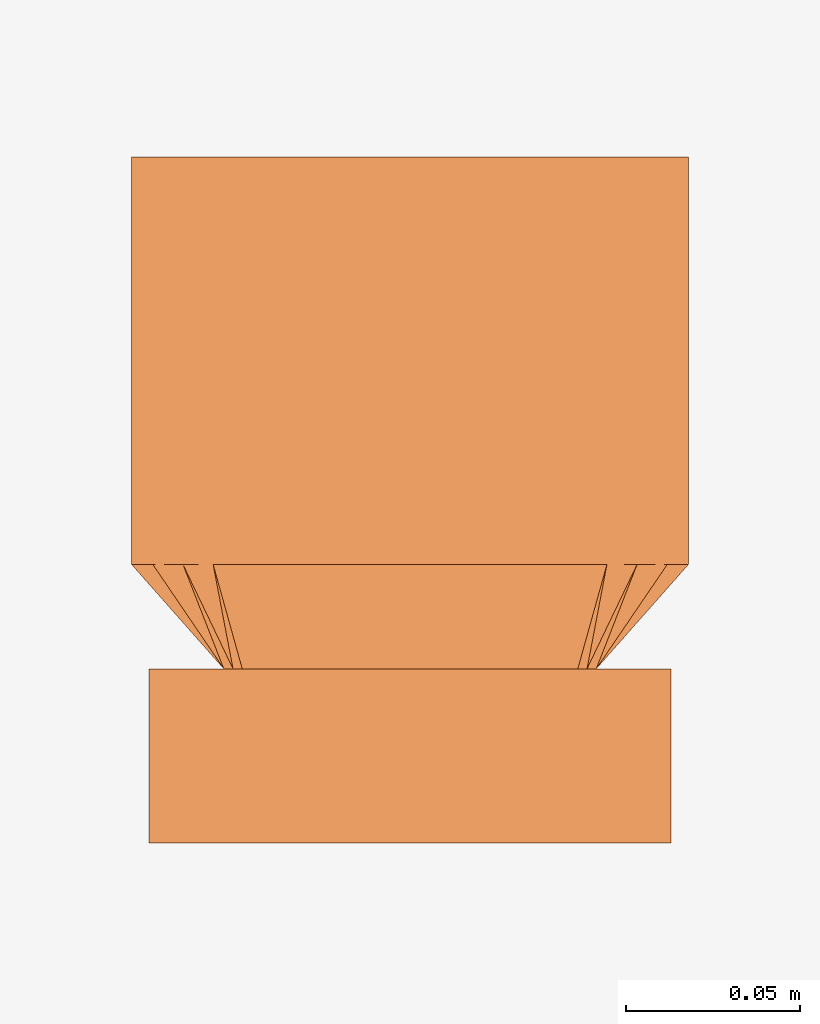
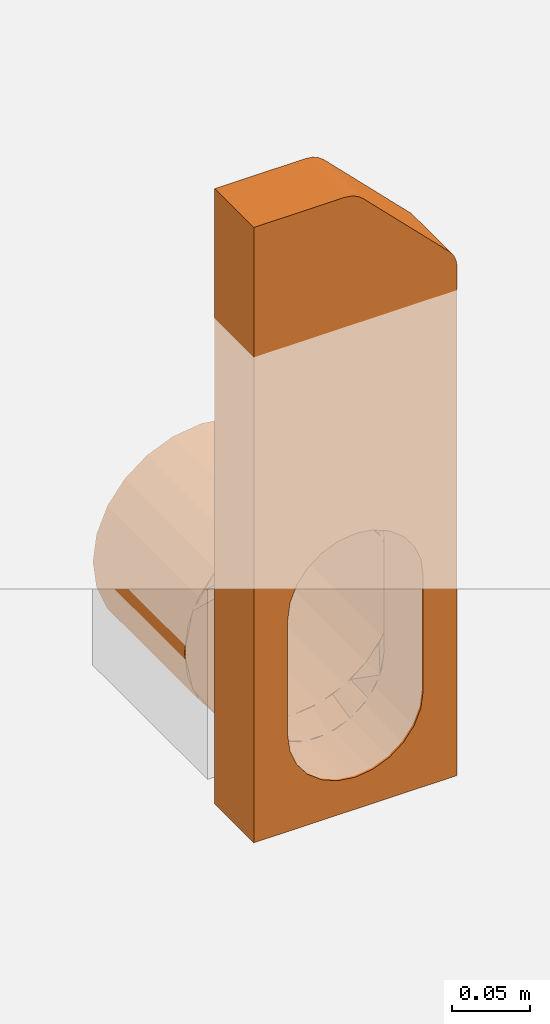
# One storey, part 2 of 2: 1 proxy.
"""IFC2X3 building model written with IfcOpenShell, lengths in millimetres."""

from ifc_helpers import new_model, entity, si_unit, converted_unit, direction, frame, origin, place, context, subcontext, project, spatial, faceted_brep, source, transform, mapped, material, material_list, element, save


model = new_model("IFC2X3")

# Units and contexts
model_context = context("Model", 3, precision=1e-06, world=origin(), true_north=direction((2.0, 6.12303176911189e-17, 1.0)))
context_of_model = context(None, 3, precision=1e-06, world=origin(), true_north=direction((2.0, 6.12303176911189e-17, 1.0)))
body_context = subcontext(model_context, "Body", "Model", "MODEL_VIEW")
ifc_project = project(units=[si_unit("LENGTHUNIT", "METRE", prefix="MILLI"), si_unit("AREAUNIT", "SQUARE_METRE", prefix="MILLI"), si_unit("VOLUMEUNIT", "CUBIC_METRE", prefix="MILLI"), converted_unit("PLANEANGLEUNIT", "DEGREE", entity("IfcRatioMeasure", 0.0174532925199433), si_unit("PLANEANGLEUNIT", "RADIAN"), dimensions=[0, 0, 0, 0, 0, 0, 0]), si_unit("TIMEUNIT", "SECOND")], contexts=[model_context, context_of_model])

# Site, building, storey
site_placement = place(None, origin())
site = spatial("IfcSite", under=ifc_project, at=site_placement, Name="Default", CompositionType="ELEMENT")
building_placement = place(site_placement, origin())
building = spatial("IfcBuilding", under=site, at=building_placement, CompositionType="ELEMENT")
storey_placement = place(building_placement, origin())
storey = spatial("IfcBuildingStorey", under=building, at=storey_placement, Name="Level 1", CompositionType="ELEMENT", Elevation=0.0)

# Proxy
ifc_material_1 = material(Name="ACO Polymer Concrete")
ifc_material_2 = material(Name="Acetal Resin, Black")
ifc_material_list = material_list([ifc_material_1, ifc_material_2])
shared_shape = source(origin(), body_context, "Body", "Brep", [
    faceted_brep([(-75.0, 50.0, -380.0), (-24.9795963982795, 50.0, -348.266967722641), (-12.9205486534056, 50.0, -353.261988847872), (-35.3349354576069, 50.0, -340.321036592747), (0.0204036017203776, 50.0, -354.965697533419), (75.0, 50.0, -380.0), (-49.9795963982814, 50.0, -214.96569753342), (-49.9795963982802, 50.0, -304.96569753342), (-75.0, 50.0, 100.0), (-43.2808665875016, 50.0, -329.96569753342), (-48.2758877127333, 50.0, -317.906649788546), (12.9613558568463, 50.0, -353.261988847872), (25.0204036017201, 50.0, -348.26696772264), (35.3757426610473, 50.0, -340.321036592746), (43.3216737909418, 50.0, -329.965697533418), (50.0204036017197, 50.0, -304.965697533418), (50.0204036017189, 50.0, -214.965697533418), (75.0, 50.0, 17.1299423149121), (48.3166949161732, 50.0, -317.906649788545), (48.3166949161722, 50.0, -202.024745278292), (-43.2808665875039, 50.0, -189.965697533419), (-48.2758877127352, 50.0, -202.024745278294), (-24.9795963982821, 50.0, -171.664427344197), (-35.3349354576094, 50.0, -179.610358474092), (-12.9205486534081, 50.0, -166.669406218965), (-7.87005768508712, 50.0, 100.0), (5.56497115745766, 50.0, 94.4350288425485), (69.4350288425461, 50.0, 30.5649711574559), (0.0204036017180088, 50.0, -164.965697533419), (-2.95249582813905, 50.0, 99.3525906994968), (1.6299423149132, 50.0, 97.4544826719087), (25.0204036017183, 50.0, -171.664427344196), (12.9613558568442, 50.0, -166.669406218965), (43.3216737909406, 50.0, -189.965697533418), (35.3757426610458, 50.0, -179.610358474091), (72.4544826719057, 50.0, 26.6299423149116), (74.3525906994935, 50.0, 22.0475041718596), (-7.87005768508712, 0.0, 100.0), (5.56497115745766, 0.0, 94.4350288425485), (1.6299423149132, 0.0, 97.4544826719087), (-2.95249582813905, 0.0, 99.3525906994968), (-75.0, 0.0, 100.0), (69.4350288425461, 0.0, 30.5649711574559), (-43.2808665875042, 0.0, -189.96569753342), (-35.3349354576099, 0.0, -179.610358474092), (-12.9205486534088, 0.0, -166.669406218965), (75.0, 0.0, 17.1299423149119), (-24.9795963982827, 0.0, -171.664427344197), (-48.2758877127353, 0.0, -202.024745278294), (0.0204036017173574, 0.0, -164.965697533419), (74.3525906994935, 0.0, 22.0475041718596), (72.4544826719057, 0.0, 26.6299423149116), (12.9613558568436, 0.0, -166.669406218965), (25.0204036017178, 0.0, -171.664427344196), (35.3757426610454, 0.0, -179.61035847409), (43.3216737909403, 0.0, -189.965697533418), (48.316694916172, 0.0, -202.024745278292), (-49.9795963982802, 0.0, -304.96569753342), (-49.9795963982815, 0.0, -214.96569753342), (-75.0, 0.0, -380.0), (-48.2758877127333, 0.0, -317.906649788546), (-43.2808665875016, 0.0, -329.96569753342), (-35.3349354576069, 0.0, -340.321036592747), (-24.9795963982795, 0.0, -348.266967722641), (-12.9205486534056, 0.0, -353.261988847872), (0.0204036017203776, 0.0, -354.965697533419), (75.0, 0.0, -380.0), (50.0204036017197, 0.0, -304.965697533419), (48.3166949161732, 0.0, -317.906649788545), (50.0204036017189, 0.0, -214.965697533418), (43.3216737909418, 0.0, -329.965697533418), (12.9613558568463, 0.0, -353.261988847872), (35.3757426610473, 0.0, -340.321036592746), (25.0204036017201, 0.0, -348.26696772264)], [[[0, 1, 2]], [[1, 0, 3]], [[0, 2, 4, 5]], [[6, 7, 0, 8]], [[9, 3, 0]], [[10, 9, 0]], [[7, 10, 0]], [[11, 12, 5]], [[5, 13, 14]], [[13, 5, 12]], [[11, 5, 4]], [[5, 15, 16, 17]], [[18, 15, 5]], [[14, 18, 5]], [[17, 16, 19]], [[20, 21, 8]], [[22, 23, 8]], [[20, 8, 23]], [[8, 17, 24, 22]], [[8, 25, 26, 27]], [[24, 17, 28]], [[25, 29, 30, 26]], [[21, 6, 8]], [[31, 32, 17]], [[33, 34, 17]], [[17, 34, 31]], [[33, 17, 19]], [[28, 17, 32]], [[17, 8, 27]], [[27, 35, 36, 17]], [[37, 38, 39, 40]], [[38, 37, 41, 42]], [[43, 44, 41]], [[45, 46, 41, 47]], [[44, 47, 41]], [[41, 48, 43]], [[46, 45, 49]], [[42, 46, 50, 51]], [[52, 53, 46]], [[46, 54, 55]], [[54, 46, 53]], [[46, 55, 56]], [[42, 41, 46]], [[49, 52, 46]], [[57, 58, 59]], [[57, 59, 60]], [[58, 48, 41, 59]], [[61, 59, 62]], [[59, 61, 60]], [[63, 62, 59]], [[64, 63, 59]], [[65, 64, 59, 66]], [[67, 68, 66]], [[69, 67, 66, 46]], [[70, 66, 68]], [[71, 65, 66]], [[72, 73, 66]], [[66, 73, 71]], [[72, 66, 70]], [[69, 46, 56]], [[59, 41, 8, 0]], [[66, 59, 0, 5]], [[17, 46, 66, 5]], [[8, 41, 37, 25]], [[57, 7, 6, 58]], [[21, 48, 58, 6]], [[45, 47, 22, 24]], [[47, 44, 23, 22]], [[49, 45, 24, 28]], [[43, 48, 21, 20]], [[44, 43, 20, 23]], [[53, 52, 32, 31]], [[54, 53, 31, 34]], [[56, 55, 33, 19]], [[55, 54, 34, 33]], [[69, 56, 19, 16]], [[28, 32, 52, 49]], [[16, 15, 67, 69]], [[18, 68, 67, 15]], [[14, 70, 68, 18]], [[65, 71, 11, 4]], [[13, 72, 70, 14]], [[13, 12, 73, 72]], [[71, 73, 12, 11]], [[63, 64, 2, 1]], [[62, 63, 1, 3]], [[60, 61, 9, 10]], [[61, 62, 3, 9]], [[57, 60, 10, 7]], [[4, 2, 64, 65]], [[46, 17, 36, 50]], [[50, 36, 35, 51]], [[51, 35, 27, 42]], [[38, 42, 27, 26]], [[38, 26, 30, 39]], [[39, 30, 29, 40]], [[40, 29, 25, 37]]]),
    faceted_brep([(-30.5712097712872, 80.0, -352.426054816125), (-43.5481437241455, 80.0, -343.755144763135), (-42.4623383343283, 80.0, -342.13348001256), (-29.2349814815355, 80.0, -349.201790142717), (0.043464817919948, 80.0, -358.515692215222), (-15.2638724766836, 80.0, -355.470873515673), (-14.8829729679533, 80.0, -353.553557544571), (0.0420870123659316, 80.0, -355.021642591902), (-56.5250776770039, 80.0, -335.084234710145), (-54.0566263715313, 80.0, -332.6201723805), (-79.9565351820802, 80.0, -278.515692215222), (-76.4678184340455, 80.0, -278.521643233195), (-75.9275944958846, 80.0, -284.005838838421), (-74.9974728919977, 80.0, -293.448161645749), (-73.866897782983, 80.0, -309.130366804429), (-77.6982946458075, 80.0, -289.868634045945), (-70.6430722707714, 80.0, -307.800620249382), (-63.5721509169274, 80.0, -321.027394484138), (-65.1959877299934, 80.0, -322.107300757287), (30.6581394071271, 80.0, -352.426054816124), (15.3508021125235, 80.0, -355.470873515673), (14.9666109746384, 80.0, -353.549723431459), (29.3170621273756, 80.0, -349.19445109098), (56.6120073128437, 80.0, -335.084234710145), (43.6350733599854, 80.0, -343.755144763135), (42.5419883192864, 80.0, -342.123265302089), (54.1332059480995, 80.0, -332.607955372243), (63.6453205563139, 80.0, -321.014213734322), (70.7128347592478, 80.0, -307.787583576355), (73.9538274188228, 80.0, -309.130366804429), (65.2829173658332, 80.0, -322.107300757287), (80.0434648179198, 80.0, -278.515692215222), (77.7852242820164, 80.0, -289.868634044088), (75.0641868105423, 80.0, -293.436340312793), (75.9923882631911, 80.0, -284.005895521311), (-77.6982946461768, 80.0, -267.162750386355), (-74.9974728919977, 80.0, -263.595124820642), (-75.9275944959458, 80.0, -273.037447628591), (-73.8668977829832, 80.0, -247.901017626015), (-70.6430722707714, 80.0, -249.242666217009), (-63.5721509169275, 80.0, -236.015891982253), (-65.1959877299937, 80.0, -234.924083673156), (-56.5250776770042, 80.0, -221.947149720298), (-54.0566263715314, 80.0, -224.423114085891), (-43.5481437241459, 80.0, -213.276239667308), (-42.4623383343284, 80.0, -214.909806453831), (-30.5712097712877, 80.0, -204.605329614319), (-29.2349814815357, 80.0, -207.841496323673), (-14.8829729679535, 80.0, -203.489728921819), (-15.2638724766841, 80.0, -201.56051091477), (0.0434648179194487, 80.0, -198.515692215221), (0.0420870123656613, 80.0, -202.021643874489), (56.6120073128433, 80.0, -221.947149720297), (65.2829173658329, 80.0, -234.924083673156), (63.6453205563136, 80.0, -236.029072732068), (54.1332059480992, 80.0, -224.435331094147), (73.9538274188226, 80.0, -247.901017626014), (70.7128347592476, 80.0, -249.255702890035), (77.7852242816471, 80.0, -267.162750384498), (75.0641868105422, 80.0, -263.606946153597), (76.5321815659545, 80.0, -278.521643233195), (75.99238826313, 80.0, -273.037390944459), (30.6581394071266, 80.0, -204.605329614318), (29.3170621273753, 80.0, -207.848835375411), (14.9666109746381, 80.0, -203.493563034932), (15.350802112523, 80.0, -201.56051091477), (43.635073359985, 80.0, -213.276239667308), (42.5419883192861, 80.0, -214.920021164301), (38.3413099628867, 50.0, -337.152791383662), (25.0477492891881, 50.0, -348.313921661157), (33.400169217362, 50.0, -346.843676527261), (40.8227342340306, 50.0, -337.536074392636), (11.9483347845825, 50.0, -357.174335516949), (22.6742520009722, 50.0, -352.009006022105), (8.7219698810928, 50.0, -354.260729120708), (-11.8614051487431, 50.0, -357.174335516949), (0.0434648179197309, 50.0, -357.174335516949), (-8.64747719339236, 50.0, -354.262515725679), (53.54346481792, 50.0, -305.015692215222), (50.0321815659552, 50.0, -305.021643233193), (47.0196359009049, 50.0, -322.1148914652), (50.8943820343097, 50.0, -316.622082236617), (48.2452992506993, 50.0, -328.228472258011), (-24.9645989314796, 50.0, -348.324772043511), (-22.5873223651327, 50.0, -352.009006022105), (-33.3132395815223, 50.0, -346.843676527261), (-38.2639633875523, 50.0, -337.168264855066), (-46.951204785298, 50.0, -322.126069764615), (-48.1583696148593, 50.0, -328.228472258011), (-40.7358045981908, 50.0, -337.536074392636), (-53.4565351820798, 50.0, -305.015692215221), (-50.8074523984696, 50.0, -316.622082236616), (-49.967818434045, 50.0, -305.021643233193), (-49.9678184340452, 50.0, -215.025265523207), (-53.4565351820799, 50.0, -215.015692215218), (50.0321815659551, 50.0, -215.025265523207), (53.5434648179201, 50.0, -215.015692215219), (47.0229120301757, 50.0, -197.941025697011), (50.8943820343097, 50.0, -203.409302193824), (38.3566098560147, 50.0, -182.912367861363), (48.2452992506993, 50.0, -191.802912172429), (40.8227342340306, 50.0, -182.495310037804), (25.0469352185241, 50.0, -171.73251671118), (33.4001692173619, 50.0, -173.187707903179), (22.6742520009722, 50.0, -168.022378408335), (11.9483347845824, 50.0, -162.857048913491), (8.7198641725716, 50.0, -165.785808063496), (0.0434648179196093, 50.0, -162.857048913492), (-11.8614051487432, 50.0, -162.857048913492), (-48.1583696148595, 50.0, -191.80291217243), (-50.8074523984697, 50.0, -203.409302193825), (-46.9562377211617, 50.0, -197.934670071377), (-38.2887836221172, 50.0, -182.908235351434), (-24.9999175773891, 50.0, -171.742543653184), (-8.66137324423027, 50.0, -165.786844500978), (-22.5873223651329, 50.0, -168.022378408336), (-33.3132395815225, 50.0, -173.18770790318), (-40.735804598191, 50.0, -182.495310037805), (67.0999042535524, 65.3469125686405, -291.459252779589), (73.5716845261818, 72.673456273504, -263.007841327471), (67.0999042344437, 65.346912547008, -247.49999043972), (-67.0129746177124, 65.3469125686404, -247.49999048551), (-73.4847548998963, 72.6734562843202, -263.007841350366), (64.1151206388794, 65.9429498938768, -290.93870416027), (57.0736511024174, 57.9714749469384, -297.980173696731), (-73.3635531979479, 76.4857374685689, -281.625908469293), (-70.2592879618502, 72.9714749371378, -284.73017370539), (-64.050757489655, 65.9429498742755, -290.938704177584), (70.323651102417, 72.9714749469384, -284.730173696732), (-57.0092879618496, 57.9714749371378, -297.980173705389), (73.4279163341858, 76.4857374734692, -281.625908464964), (-64.0507575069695, 65.9429498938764, -248.769251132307), (-57.0092879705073, 57.9714749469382, -231.897258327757), (73.4279163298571, 76.4857374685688, -271.083545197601), (70.3236510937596, 72.9714749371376, -263.645447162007), (64.1151206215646, 65.9429498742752, -248.76925109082), (-70.2592879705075, 72.9714749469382, -263.645447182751), (57.0736510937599, 57.9714749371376, -231.897258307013), (-73.3635532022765, 76.4857374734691, -271.083545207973), (73.5716845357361, 72.6734562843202, -284.987472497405), (-73.484754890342, 72.673456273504, -284.98747250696), (-67.0129745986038, 65.3469125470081, -291.459252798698)], [[[0, 1, 2, 3]], [[4, 5, 6, 7]], [[0, 3, 6, 5]], [[8, 9, 2, 1]], [[10, 11, 12, 13]], [[14, 15, 13, 16]], [[17, 9, 8, 18]], [[14, 16, 17, 18]], [[19, 20, 21, 22]], [[23, 24, 25, 26]], [[19, 22, 25, 24]], [[4, 7, 21, 20]], [[27, 28, 29, 30]], [[31, 32, 33, 34]], [[29, 28, 33, 32]], [[23, 26, 27, 30]], [[10, 35, 36, 37]], [[38, 39, 36, 35]], [[40, 39, 38, 41]], [[42, 43, 40, 41]], [[42, 44, 45, 43]], [[46, 47, 45, 44]], [[48, 47, 46, 49]], [[50, 51, 48, 49]], [[52, 53, 54, 55]], [[56, 57, 54, 53]], [[56, 58, 59, 57]], [[31, 60, 61, 59]], [[62, 63, 64, 65]], [[50, 65, 64, 51]], [[62, 66, 67, 63]], [[52, 55, 67, 66]], [[68, 69, 70, 71]], [[72, 73, 69, 74]], [[75, 76, 74, 77]], [[78, 79, 80, 81]], [[80, 68, 82, 81]], [[75, 77, 83, 84]], [[85, 84, 83, 86]], [[86, 87, 88, 89]], [[90, 91, 87, 92]], [[90, 92, 93, 94]], [[95, 79, 78, 96]], [[97, 95, 96, 98]], [[99, 97, 100, 101]], [[102, 99, 103, 104]], [[105, 106, 102, 104]], [[106, 105, 107, 108]], [[109, 110, 111, 112]], [[94, 93, 111, 110]], [[113, 114, 108, 115]], [[108, 114, 106]], [[112, 113, 116, 117]], [[78, 118, 119, 120]], [[90, 94, 121, 122]], [[79, 27, 80]], [[80, 25, 68]], [[21, 74, 69]], [[7, 74, 21]], [[22, 69, 68]], [[22, 21, 69]], [[123, 33, 28]], [[79, 124, 27]], [[12, 11, 125, 126]], [[80, 26, 25]], [[26, 80, 27]], [[28, 27, 124]], [[68, 25, 22]], [[126, 127, 13, 12]], [[6, 77, 7]], [[74, 7, 77]], [[83, 77, 6]], [[33, 123, 128, 34]], [[2, 87, 86]], [[86, 83, 3]], [[16, 127, 129]], [[3, 83, 6]], [[124, 123, 28]], [[92, 87, 17]], [[3, 2, 86]], [[2, 9, 87]], [[34, 128, 130, 60]], [[92, 17, 129]], [[9, 17, 87]], [[16, 129, 17]], [[13, 127, 16]], [[93, 40, 111]], [[111, 45, 112]], [[48, 114, 113]], [[51, 114, 48]], [[47, 113, 112]], [[47, 48, 113]], [[131, 36, 39]], [[93, 132, 40]], [[61, 60, 133, 134]], [[111, 43, 45]], [[43, 111, 40]], [[39, 40, 132]], [[112, 45, 47]], [[134, 135, 59, 61]], [[64, 106, 51]], [[114, 51, 106]], [[102, 106, 64]], [[36, 131, 136, 37]], [[67, 97, 99]], [[99, 102, 63]], [[63, 102, 64]], [[95, 54, 137]], [[95, 97, 54]], [[63, 67, 99]], [[67, 55, 97]], [[37, 136, 138, 11]], [[57, 135, 137]], [[55, 54, 97]], [[132, 131, 39]], [[57, 137, 54]], [[59, 135, 57]], [[79, 95, 137, 135]], [[92, 129, 138, 136]], [[41, 110, 42]], [[103, 66, 62]], [[44, 109, 117, 116]], [[35, 10, 122, 121]], [[46, 116, 115]], [[108, 49, 115]], [[104, 103, 62]], [[121, 94, 38, 35]], [[119, 31, 58, 120]], [[110, 41, 94]], [[110, 109, 42]], [[50, 108, 107, 105]], [[108, 50, 49]], [[66, 100, 52]], [[101, 100, 66, 103]], [[94, 41, 38]], [[96, 53, 98]], [[56, 96, 120, 58]], [[96, 56, 53]], [[100, 98, 52]], [[109, 44, 42]], [[44, 116, 46]], [[46, 115, 49]], [[104, 65, 105]], [[52, 98, 53]], [[65, 104, 62]], [[65, 50, 105]], [[30, 81, 23]], [[85, 1, 0]], [[24, 82, 71, 70]], [[32, 31, 139, 118]], [[19, 70, 73]], [[72, 20, 73]], [[84, 85, 0]], [[118, 78, 29, 32]], [[140, 10, 15, 141]], [[81, 30, 78]], [[81, 82, 23]], [[4, 72, 76, 75]], [[72, 4, 20]], [[1, 88, 8]], [[89, 88, 1, 85]], [[78, 30, 29]], [[90, 18, 91]], [[14, 90, 141, 15]], [[90, 14, 18]], [[88, 91, 8]], [[82, 24, 23]], [[24, 70, 19]], [[19, 73, 20]], [[84, 5, 75]], [[8, 91, 18]], [[5, 84, 0]], [[5, 4, 75]], [[13, 15, 10]], [[31, 34, 60]], [[59, 58, 31]], [[10, 37, 11]], [[69, 73, 70]], [[74, 76, 72]], [[68, 71, 82]], [[87, 91, 88]], [[86, 89, 85]], [[97, 98, 100]], [[99, 101, 103]], [[113, 115, 116]], [[112, 117, 109]], [[78, 120, 96]], [[119, 118, 139, 31]], [[122, 10, 140, 141]], [[122, 141, 90]], [[79, 135, 134, 133]], [[133, 60, 130, 128]], [[133, 128, 123, 124]], [[133, 124, 79]], [[92, 136, 131, 132]], [[92, 132, 93]], [[138, 129, 127, 126]], [[138, 126, 125, 11]]]),
    faceted_brep([(-54.0936687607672, 80.0, -224.427501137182), (-38.2499999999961, 80.0, -212.270226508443), (-40.0, 80.0, -209.339137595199), (-56.5685424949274, 80.0, -222.05262740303), (-20.7055236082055, 80.0, -201.347103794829), (-19.7996569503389, 80.0, -204.62784418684), (0.0, 80.0, -198.621169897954), (0.0, 80.0, -202.021169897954), (-76.4999999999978, 80.0, -278.521169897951), (-73.8933257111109, 80.0, -258.721512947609), (-77.2740661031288, 80.0, -257.915646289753), (-80.0, 80.0, -278.621169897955), (-69.2820323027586, 80.0, -238.621169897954), (-66.2509433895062, 80.0, -240.271169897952), (19.7996569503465, 80.0, -204.62784418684), (20.7055236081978, 80.0, -201.347103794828), (38.2500000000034, 80.0, -212.270226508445), (40.0, 80.0, -209.339137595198), (54.093668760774, 80.0, -224.427501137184), (56.5685424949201, 80.0, -222.05262740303), (66.2509433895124, 80.0, -240.271169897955), (69.2820323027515, 80.0, -238.621169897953), (73.8933257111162, 80.0, -258.721512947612), (77.2740661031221, 80.0, -257.915646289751), (76.5000000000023, 80.0, -278.521169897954), (80.0, 80.0, -278.621169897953), (-77.2740661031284, 80.0, -299.326693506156), (-73.8933257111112, 80.0, -298.320826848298), (-66.2509433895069, 80.0, -316.771169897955), (-69.2820323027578, 80.0, -318.621169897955), (-54.0936687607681, 80.0, -332.614838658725), (-56.5685424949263, 80.0, -335.189712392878), (-40.0, 80.0, -347.903202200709), (-38.2499999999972, 80.0, -344.772113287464), (-19.79965695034, 80.0, -352.414495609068), (-20.705523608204, 80.0, -355.895236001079), (0.0, 80.0, -355.021169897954), (0.0, 80.0, -358.621169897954), (69.2820323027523, 80.0, -318.621169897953), (66.2509433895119, 80.0, -316.771169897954), (54.0936687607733, 80.0, -332.614838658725), (56.5685424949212, 80.0, -335.189712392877), (77.2740661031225, 80.0, -299.326693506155), (73.893325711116, 80.0, -298.320826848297), (20.7055236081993, 80.0, -355.895236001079), (19.7996569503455, 80.0, -352.414495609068), (40.0, 80.0, -347.903202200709), (38.2500000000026, 80.0, -344.772113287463), (-38.2499999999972, 197.0, -344.772113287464), (-40.0, 197.0, -347.903202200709), (-56.5685424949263, 197.0, -335.189712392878), (-54.0936687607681, 197.0, -332.614838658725), (-19.79965695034, 197.0, -352.414495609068), (-20.705523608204, 197.0, -355.895236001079), (0.0, 197.0, -355.021169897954), (0.0, 197.0, -358.621169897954), (-73.8933257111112, 197.0, -298.320826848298), (-77.2740661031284, 197.0, -299.326693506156), (-80.0, 197.0, -278.621169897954), (-76.4999999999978, 197.0, -278.521169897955), (-66.2509433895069, 197.0, -316.771169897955), (-69.2820323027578, 197.0, -318.621169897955), (20.7055236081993, 197.0, -355.895236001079), (19.7996569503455, 197.0, -352.414495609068), (40.0, 197.0, -347.903202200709), (38.2500000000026, 197.0, -344.772113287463), (56.5685424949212, 197.0, -335.189712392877), (54.0936687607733, 197.0, -332.614838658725), (66.2509433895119, 197.0, -316.771169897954), (69.2820323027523, 197.0, -318.621169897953), (77.2740661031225, 197.0, -299.326693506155), (73.893325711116, 197.0, -298.320826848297), (80.0, 197.0, -278.621169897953), (76.5000000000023, 197.0, -278.521169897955), (-77.2740661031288, 197.0, -257.915646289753), (-73.8933257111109, 197.0, -258.721512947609), (-69.2820323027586, 197.0, -238.621169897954), (-66.2509433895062, 197.0, -240.271169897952), (-56.5685424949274, 197.0, -222.05262740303), (-54.0936687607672, 197.0, -224.427501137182), (-40.0, 197.0, -209.339137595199), (-38.2499999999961, 197.0, -212.270226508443), (-20.7055236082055, 197.0, -201.347103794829), (-19.7996569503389, 197.0, -204.62784418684), (0.0, 197.0, -198.621169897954), (0.0, 197.0, -202.021169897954), (56.5685424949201, 197.0, -222.05262740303), (69.2820323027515, 197.0, -238.621169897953), (66.2509433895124, 197.0, -240.271169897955), (54.093668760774, 197.0, -224.427501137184), (73.8933257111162, 197.0, -258.721512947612), (77.2740661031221, 197.0, -257.915646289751), (20.7055236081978, 197.0, -201.347103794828), (19.7996569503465, 197.0, -204.62784418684), (38.2500000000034, 197.0, -212.270226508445), (40.0, 197.0, -209.339137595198)], [[[0, 1, 2, 3]], [[4, 2, 1, 5]], [[6, 4, 5, 7]], [[8, 9, 10, 11]], [[12, 10, 9, 13]], [[13, 0, 3, 12]], [[14, 15, 6, 7]], [[15, 14, 16, 17]], [[18, 19, 17, 16]], [[20, 21, 19, 18]], [[21, 20, 22, 23]], [[23, 22, 24, 25]], [[11, 26, 27, 8]], [[28, 27, 26, 29]], [[30, 28, 29, 31]], [[31, 32, 33, 30]], [[34, 33, 32, 35]], [[36, 34, 35, 37]], [[38, 39, 40, 41]], [[39, 38, 42, 43]], [[43, 42, 25, 24]], [[44, 45, 36, 37]], [[45, 44, 46, 47]], [[47, 46, 41, 40]], [[48, 49, 50, 51]], [[49, 48, 52, 53]], [[53, 52, 54, 55]], [[56, 57, 58, 59]], [[57, 56, 60, 61]], [[61, 60, 51, 50]], [[62, 55, 54, 63]], [[64, 62, 63, 65]], [[66, 64, 65, 67]], [[67, 68, 69, 66]], [[70, 69, 68, 71]], [[72, 70, 71, 73]], [[74, 75, 59, 58]], [[75, 74, 76, 77]], [[78, 79, 77, 76]], [[80, 81, 79, 78]], [[81, 80, 82, 83]], [[84, 85, 83, 82]], [[86, 87, 88, 89]], [[90, 88, 87, 91]], [[73, 90, 91, 72]], [[84, 92, 93, 85]], [[94, 93, 92, 95]], [[95, 86, 89, 94]], [[11, 10, 74, 58]], [[10, 12, 76, 74]], [[80, 2, 4, 82]], [[82, 4, 6, 84]], [[3, 78, 76, 12]], [[78, 3, 2, 80]], [[92, 15, 17, 95]], [[95, 17, 19, 86]], [[87, 21, 23, 91]], [[86, 19, 21, 87]], [[91, 23, 25, 72]], [[15, 92, 84, 6]], [[70, 42, 38, 69]], [[69, 38, 41, 66]], [[64, 46, 44, 62]], [[66, 41, 46, 64]], [[62, 44, 37, 55]], [[72, 25, 42, 70]], [[53, 35, 32, 49]], [[49, 32, 31, 50]], [[61, 29, 26, 57]], [[50, 31, 29, 61]], [[57, 26, 11, 58]], [[35, 53, 55, 37]], [[22, 90, 73, 24]], [[20, 88, 90, 22]], [[16, 94, 89, 18]], [[18, 89, 88, 20]], [[14, 93, 94, 16]], [[93, 14, 7, 85]], [[1, 81, 83, 5]], [[0, 79, 81, 1]], [[9, 75, 77, 13]], [[13, 77, 79, 0]], [[8, 59, 75, 9]], [[5, 83, 85, 7]], [[56, 59, 8, 27]], [[60, 56, 27, 28]], [[33, 48, 51, 30]], [[34, 52, 48, 33]], [[30, 51, 60, 28]], [[52, 34, 36, 54]], [[47, 65, 63, 45]], [[40, 67, 65, 47]], [[43, 71, 68, 39]], [[39, 68, 67, 40]], [[24, 73, 71, 43]], [[45, 63, 54, 36]]]),
])
proxy_placement = place(storey_placement, frame((-9994.86998757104, -538.640450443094, 0.0)))
element("IfcBuildingElementProxy", 1, at=proxy_placement, inside=storey, material=ifc_material_list, Name="Civil-Drainage-Channel-ACO-KerbDrain-SP480:4963 - RH Inlet/Outlet End cap:4963 - RH Inlet/Outlet End cap", ObjectType="4963 - RH Inlet/Outlet End cap", CompositionType="ELEMENT", context=body_context, shape_type="MappedRepresentation", body=[
    mapped(shared_shape, transform((0.0, 0.0, 0.0), scale=1.0)),
])

save(model, "model.ifc")
